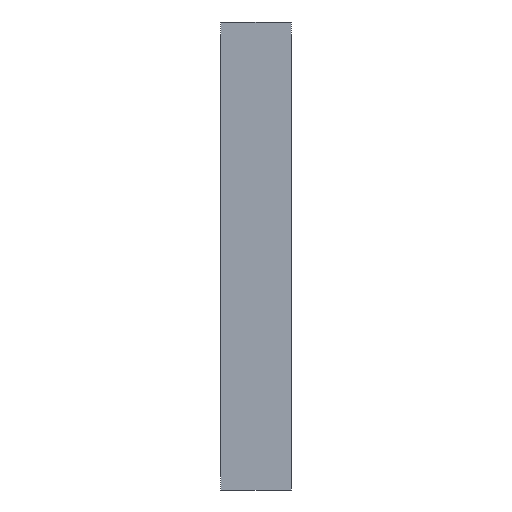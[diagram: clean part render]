
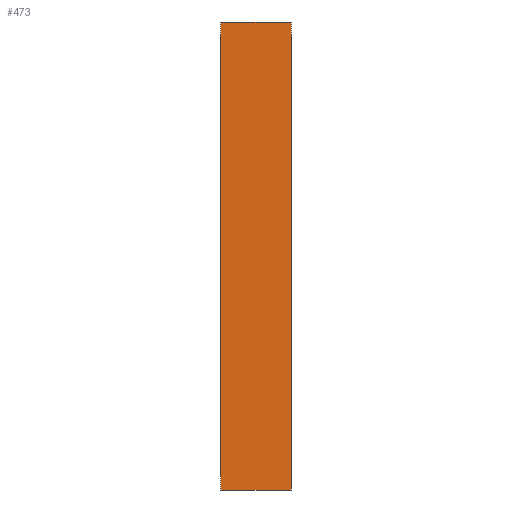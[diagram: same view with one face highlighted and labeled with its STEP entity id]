
A CAD part, left-side view. The second image highlights one B-rep face of the part: STEP entity #473.
In plain terms, the highlighted planar face has unit normal (-1, 0, 0).
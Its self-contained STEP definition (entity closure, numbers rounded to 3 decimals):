
#28 = EDGE_LOOP ( 'NONE', ( #179, #178, #118, #100 ) ) ;
#100 = ORIENTED_EDGE ( 'NONE', *, *, #1529, .T. ) ;
#118 = ORIENTED_EDGE ( 'NONE', *, *, #1519, .F. ) ;
#178 = ORIENTED_EDGE ( 'NONE', *, *, #1527, .F. ) ;
#179 = ORIENTED_EDGE ( 'NONE', *, *, #1521, .T. ) ;
#336 = FACE_OUTER_BOUND ( 'NONE', #28, .T. ) ;
#473 = ADVANCED_FACE ( 'NONE', ( #336 ), #855, .F. ) ;
#699 = VECTOR ( 'NONE', #1312, 1000. ) ;
#700 = LINE ( 'NONE', #1311, #699 ) ;
#703 = VECTOR ( 'NONE', #1308, 1000. ) ;
#704 = LINE ( 'NONE', #1307, #703 ) ;
#716 = VECTOR ( 'NONE', #1296, 1000. ) ;
#719 = VECTOR ( 'NONE', #1292, 1000. ) ;
#720 = LINE ( 'NONE', #1291, #719 ) ;
#743 = LINE ( 'NONE', #1279, #716 ) ;
#789 = VERTEX_POINT ( 'NONE', #1127 ) ;
#810 = VERTEX_POINT ( 'NONE', #1148 ) ;
#815 = VERTEX_POINT ( 'NONE', #1153 ) ;
#822 = VERTEX_POINT ( 'NONE', #1160 ) ;
#849 = CARTESIAN_POINT ( 'NONE',  ( -254., 65., 214.5 ) ) ;
#855 = PLANE ( 'NONE',  #1604 ) ;
#857 = DIRECTION ( 'NONE',  ( 0., 0., -1. ) ) ;
#858 = DIRECTION ( 'NONE',  ( 1., 0., 0. ) ) ;
#1127 = CARTESIAN_POINT ( 'NONE',  ( -254., 0., 214.5 ) ) ;
#1148 = CARTESIAN_POINT ( 'NONE',  ( -254., 65., 214.5 ) ) ;
#1153 = CARTESIAN_POINT ( 'NONE',  ( -254., 65., -214.5 ) ) ;
#1160 = CARTESIAN_POINT ( 'NONE',  ( -254., 0., -214.5 ) ) ;
#1279 = CARTESIAN_POINT ( 'NONE',  ( -254., 0., 214.5 ) ) ;
#1291 = CARTESIAN_POINT ( 'NONE',  ( -254., 65., 214.5 ) ) ;
#1292 = DIRECTION ( 'NONE',  ( 0., 0., 1. ) ) ;
#1296 = DIRECTION ( 'NONE',  ( 0., 0., 1. ) ) ;
#1307 = CARTESIAN_POINT ( 'NONE',  ( -254., 65., 214.5 ) ) ;
#1308 = DIRECTION ( 'NONE',  ( 0., -1., 0. ) ) ;
#1311 = CARTESIAN_POINT ( 'NONE',  ( -254., 65., -214.5 ) ) ;
#1312 = DIRECTION ( 'NONE',  ( 0., -1., 0. ) ) ;
#1519 = EDGE_CURVE ( 'NONE', #815, #810, #720, .T. ) ;
#1521 = EDGE_CURVE ( 'NONE', #822, #789, #743, .T. ) ;
#1527 = EDGE_CURVE ( 'NONE', #810, #789, #704, .T. ) ;
#1529 = EDGE_CURVE ( 'NONE', #815, #822, #700, .T. ) ;
#1604 = AXIS2_PLACEMENT_3D ( 'NONE', #849, #858, #857 ) ;
